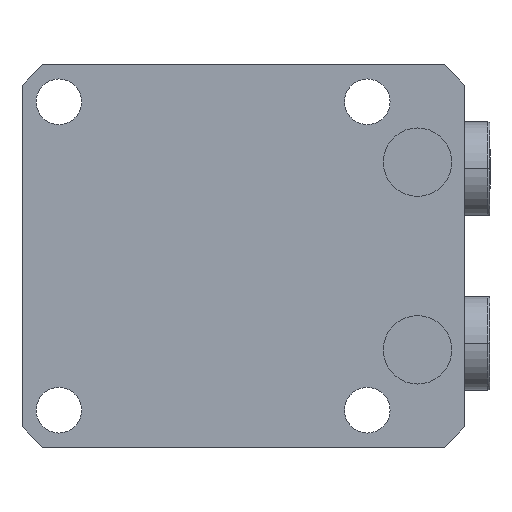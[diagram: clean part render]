
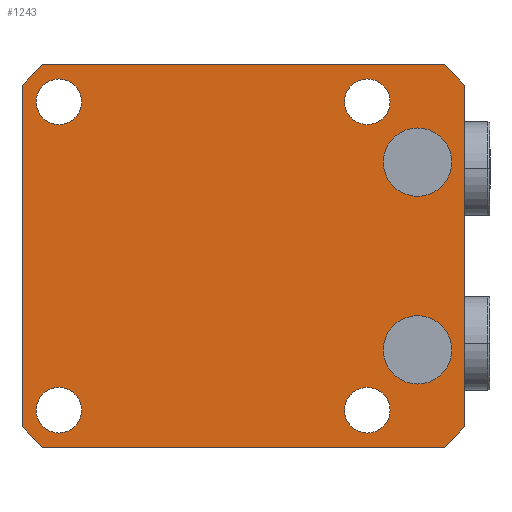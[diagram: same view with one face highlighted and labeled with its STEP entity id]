
A CAD part, front view. The second image highlights one B-rep face of the part: STEP entity #1243.
In plain terms, the highlighted planar face has unit normal (0, -1, 0).
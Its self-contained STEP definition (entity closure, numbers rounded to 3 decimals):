
#234=PLANE('',#4781);
#313=FACE_BOUND('',#1757,.T.);
#314=FACE_BOUND('',#1758,.T.);
#315=FACE_BOUND('',#1759,.T.);
#316=FACE_BOUND('',#1760,.T.);
#317=FACE_BOUND('',#1761,.T.);
#318=FACE_BOUND('',#1762,.T.);
#319=FACE_BOUND('',#1763,.T.);
#627=LINE('',#7145,#960);
#646=LINE('',#7439,#979);
#647=LINE('',#7441,#980);
#648=LINE('',#7443,#981);
#649=LINE('',#7445,#982);
#650=LINE('',#7447,#983);
#651=LINE('',#7449,#984);
#652=LINE('',#7451,#985);
#960=VECTOR('',#5690,1.);
#979=VECTOR('',#5753,1.);
#980=VECTOR('',#5754,1.);
#981=VECTOR('',#5755,1.);
#982=VECTOR('',#5756,1.);
#983=VECTOR('',#5757,1.);
#984=VECTOR('',#5758,1.);
#985=VECTOR('',#5759,1.);
#1243=ADVANCED_FACE('',(#313,#314,#315,#316,#317,#318,#319),#234,.T.);
#1757=EDGE_LOOP('',(#2540,#2541));
#1758=EDGE_LOOP('',(#2542,#2543));
#1759=EDGE_LOOP('',(#2544,#2545));
#1760=EDGE_LOOP('',(#2546,#2547));
#1761=EDGE_LOOP('',(#2548,#2549));
#1762=EDGE_LOOP('',(#2550,#2551));
#1763=EDGE_LOOP('',(#2552,#2553,#2554,#2555,#2556,#2557,#2558,#2559));
#2540=ORIENTED_EDGE('',*,*,#3980,.F.);
#2541=ORIENTED_EDGE('',*,*,#3846,.F.);
#2542=ORIENTED_EDGE('',*,*,#3981,.F.);
#2543=ORIENTED_EDGE('',*,*,#3850,.F.);
#2544=ORIENTED_EDGE('',*,*,#3966,.T.);
#2545=ORIENTED_EDGE('',*,*,#3899,.T.);
#2546=ORIENTED_EDGE('',*,*,#3962,.T.);
#2547=ORIENTED_EDGE('',*,*,#3907,.T.);
#2548=ORIENTED_EDGE('',*,*,#3960,.T.);
#2549=ORIENTED_EDGE('',*,*,#3911,.T.);
#2550=ORIENTED_EDGE('',*,*,#3964,.T.);
#2551=ORIENTED_EDGE('',*,*,#3903,.T.);
#2552=ORIENTED_EDGE('',*,*,#3929,.F.);
#2553=ORIENTED_EDGE('',*,*,#3982,.T.);
#2554=ORIENTED_EDGE('',*,*,#3983,.F.);
#2555=ORIENTED_EDGE('',*,*,#3984,.T.);
#2556=ORIENTED_EDGE('',*,*,#3985,.F.);
#2557=ORIENTED_EDGE('',*,*,#3986,.T.);
#2558=ORIENTED_EDGE('',*,*,#3987,.F.);
#2559=ORIENTED_EDGE('',*,*,#3988,.T.);
#3351=VERTEX_POINT('',#6883);
#3352=VERTEX_POINT('',#6885);
#3355=VERTEX_POINT('',#6892);
#3356=VERTEX_POINT('',#6894);
#3399=VERTEX_POINT('',#7068);
#3400=VERTEX_POINT('',#7069);
#3403=VERTEX_POINT('',#7077);
#3404=VERTEX_POINT('',#7078);
#3407=VERTEX_POINT('',#7086);
#3408=VERTEX_POINT('',#7087);
#3411=VERTEX_POINT('',#7095);
#3412=VERTEX_POINT('',#7096);
#3429=VERTEX_POINT('',#7144);
#3430=VERTEX_POINT('',#7146);
#3457=VERTEX_POINT('',#7440);
#3458=VERTEX_POINT('',#7442);
#3459=VERTEX_POINT('',#7444);
#3460=VERTEX_POINT('',#7446);
#3461=VERTEX_POINT('',#7448);
#3462=VERTEX_POINT('',#7450);
#3846=EDGE_CURVE('',#3351,#3352,#4359,.T.);
#3850=EDGE_CURVE('',#3355,#3356,#4361,.T.);
#3899=EDGE_CURVE('',#3399,#3400,#4378,.T.);
#3903=EDGE_CURVE('',#3403,#3404,#4380,.T.);
#3907=EDGE_CURVE('',#3407,#3408,#4382,.T.);
#3911=EDGE_CURVE('',#3411,#3412,#4384,.T.);
#3929=EDGE_CURVE('',#3429,#3430,#627,.T.);
#3960=EDGE_CURVE('',#3412,#3411,#4390,.T.);
#3962=EDGE_CURVE('',#3408,#3407,#4392,.T.);
#3964=EDGE_CURVE('',#3404,#3403,#4394,.T.);
#3966=EDGE_CURVE('',#3400,#3399,#4396,.T.);
#3980=EDGE_CURVE('',#3352,#3351,#4399,.T.);
#3981=EDGE_CURVE('',#3356,#3355,#4400,.T.);
#3982=EDGE_CURVE('',#3429,#3457,#646,.T.);
#3983=EDGE_CURVE('',#3458,#3457,#647,.T.);
#3984=EDGE_CURVE('',#3458,#3459,#648,.T.);
#3985=EDGE_CURVE('',#3460,#3459,#649,.T.);
#3986=EDGE_CURVE('',#3460,#3461,#650,.T.);
#3987=EDGE_CURVE('',#3462,#3461,#651,.T.);
#3988=EDGE_CURVE('',#3462,#3430,#652,.T.);
#4359=CIRCLE('',#4710,5.1);
#4361=CIRCLE('',#4713,5.1);
#4378=CIRCLE('',#4742,3.4);
#4380=CIRCLE('',#4745,3.4);
#4382=CIRCLE('',#4748,3.4);
#4384=CIRCLE('',#4751,3.4);
#4390=CIRCLE('',#4765,3.4);
#4392=CIRCLE('',#4768,3.4);
#4394=CIRCLE('',#4771,3.4);
#4396=CIRCLE('',#4774,3.4);
#4399=CIRCLE('',#4779,5.1);
#4400=CIRCLE('',#4780,5.1);
#4710=AXIS2_PLACEMENT_3D('',#6884,#5552,#5553);
#4713=AXIS2_PLACEMENT_3D('',#6893,#5560,#5561);
#4742=AXIS2_PLACEMENT_3D('',#7067,#5638,#5639);
#4745=AXIS2_PLACEMENT_3D('',#7076,#5646,#5647);
#4748=AXIS2_PLACEMENT_3D('',#7085,#5654,#5655);
#4751=AXIS2_PLACEMENT_3D('',#7094,#5662,#5663);
#4765=AXIS2_PLACEMENT_3D('',#7362,#5721,#5722);
#4768=AXIS2_PLACEMENT_3D('',#7365,#5727,#5728);
#4771=AXIS2_PLACEMENT_3D('',#7368,#5733,#5734);
#4774=AXIS2_PLACEMENT_3D('',#7371,#5739,#5740);
#4779=AXIS2_PLACEMENT_3D('',#7437,#5749,#5750);
#4780=AXIS2_PLACEMENT_3D('',#7438,#5751,#5752);
#4781=AXIS2_PLACEMENT_3D('',#7452,#5760,#5761);
#5552=DIRECTION('',(0.,-1.,0.));
#5553=DIRECTION('',(0.,0.,-1.));
#5560=DIRECTION('',(0.,-1.,0.));
#5561=DIRECTION('',(0.,0.,-1.));
#5638=DIRECTION('',(0.,1.,0.));
#5639=DIRECTION('',(0.,0.,-1.));
#5646=DIRECTION('',(0.,1.,0.));
#5647=DIRECTION('',(0.,0.,-1.));
#5654=DIRECTION('',(0.,1.,0.));
#5655=DIRECTION('',(0.,0.,-1.));
#5662=DIRECTION('',(0.,1.,0.));
#5663=DIRECTION('',(0.,0.,-1.));
#5690=DIRECTION('',(-1.,0.,0.));
#5721=DIRECTION('',(0.,1.,0.));
#5722=DIRECTION('',(0.,0.,-1.));
#5727=DIRECTION('',(0.,1.,0.));
#5728=DIRECTION('',(0.,0.,-1.));
#5733=DIRECTION('',(0.,1.,0.));
#5734=DIRECTION('',(0.,0.,-1.));
#5739=DIRECTION('',(0.,1.,0.));
#5740=DIRECTION('',(0.,0.,-1.));
#5749=DIRECTION('',(0.,-1.,0.));
#5750=DIRECTION('',(0.,0.,-1.));
#5751=DIRECTION('',(0.,-1.,0.));
#5752=DIRECTION('',(0.,0.,-1.));
#5753=DIRECTION('',(0.707,0.,0.707));
#5754=DIRECTION('',(0.,0.,-1.));
#5755=DIRECTION('',(-0.707,0.,0.707));
#5756=DIRECTION('',(1.,0.,0.));
#5757=DIRECTION('',(-0.707,0.,-0.707));
#5758=DIRECTION('',(0.,0.,1.));
#5759=DIRECTION('',(0.707,0.,-0.707));
#5760=DIRECTION('',(0.,-1.,0.));
#5761=DIRECTION('',(0.,0.,-1.));
#6883=CARTESIAN_POINT('',(-30.5,-71.,-8.9));
#6884=CARTESIAN_POINT('',(-30.5,-71.,-14.));
#6885=CARTESIAN_POINT('',(-30.5,-71.,-19.1));
#6892=CARTESIAN_POINT('',(-30.5,-71.,19.1));
#6893=CARTESIAN_POINT('',(-30.5,-71.,14.));
#6894=CARTESIAN_POINT('',(-30.5,-71.,8.9));
#7067=CARTESIAN_POINT('',(-23.,-71.,-23.));
#7068=CARTESIAN_POINT('',(-23.,-71.,-26.4));
#7069=CARTESIAN_POINT('',(-23.,-71.,-19.6));
#7076=CARTESIAN_POINT('',(23.,-71.,23.));
#7077=CARTESIAN_POINT('',(23.,-71.,19.6));
#7078=CARTESIAN_POINT('',(23.,-71.,26.4));
#7085=CARTESIAN_POINT('',(-23.,-71.,23.));
#7086=CARTESIAN_POINT('',(-23.,-71.,19.6));
#7087=CARTESIAN_POINT('',(-23.,-71.,26.4));
#7094=CARTESIAN_POINT('',(23.,-71.,-23.));
#7095=CARTESIAN_POINT('',(23.,-71.,-26.4));
#7096=CARTESIAN_POINT('',(23.,-71.,-19.6));
#7144=CARTESIAN_POINT('',(25.5,-71.,-28.5));
#7145=CARTESIAN_POINT('',(28.5,-71.,-28.5));
#7146=CARTESIAN_POINT('',(-34.5,-71.,-28.5));
#7362=CARTESIAN_POINT('',(23.,-71.,-23.));
#7365=CARTESIAN_POINT('',(-23.,-71.,23.));
#7368=CARTESIAN_POINT('',(23.,-71.,23.));
#7371=CARTESIAN_POINT('',(-23.,-71.,-23.));
#7437=CARTESIAN_POINT('',(-30.5,-71.,-14.));
#7438=CARTESIAN_POINT('',(-30.5,-71.,14.));
#7439=CARTESIAN_POINT('',(55.5,-71.,1.5));
#7440=CARTESIAN_POINT('',(28.5,-71.,-25.5));
#7441=CARTESIAN_POINT('',(28.5,-71.,-28.5));
#7442=CARTESIAN_POINT('',(28.5,-71.,25.5));
#7443=CARTESIAN_POINT('',(27.,-71.,27.));
#7444=CARTESIAN_POINT('',(25.5,-71.,28.5));
#7445=CARTESIAN_POINT('',(28.5,-71.,28.5));
#7446=CARTESIAN_POINT('',(-34.5,-71.,28.5));
#7447=CARTESIAN_POINT('',(-3.,-71.,60.));
#7448=CARTESIAN_POINT('',(-37.5,-71.,25.5));
#7449=CARTESIAN_POINT('',(-37.5,-71.,28.5));
#7450=CARTESIAN_POINT('',(-37.5,-71.,-25.5));
#7451=CARTESIAN_POINT('',(-31.5,-71.,-31.5));
#7452=CARTESIAN_POINT('',(28.5,-71.,28.5));
